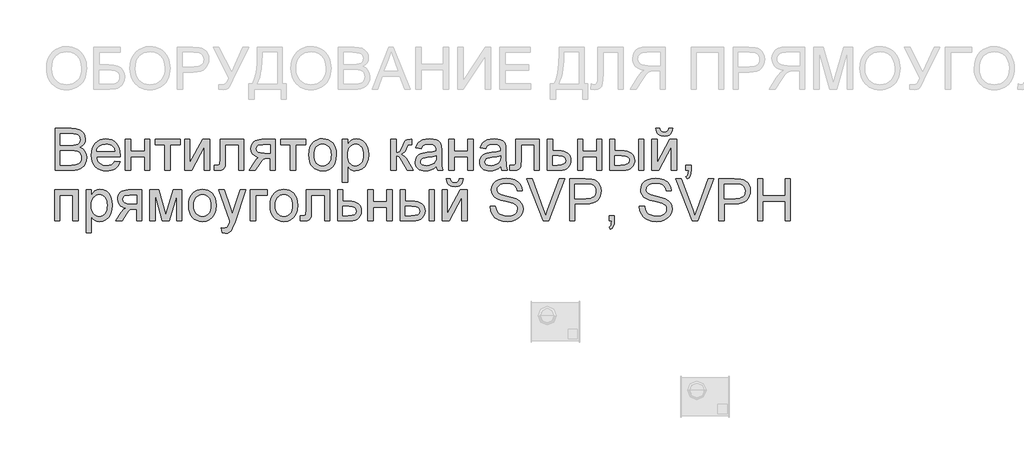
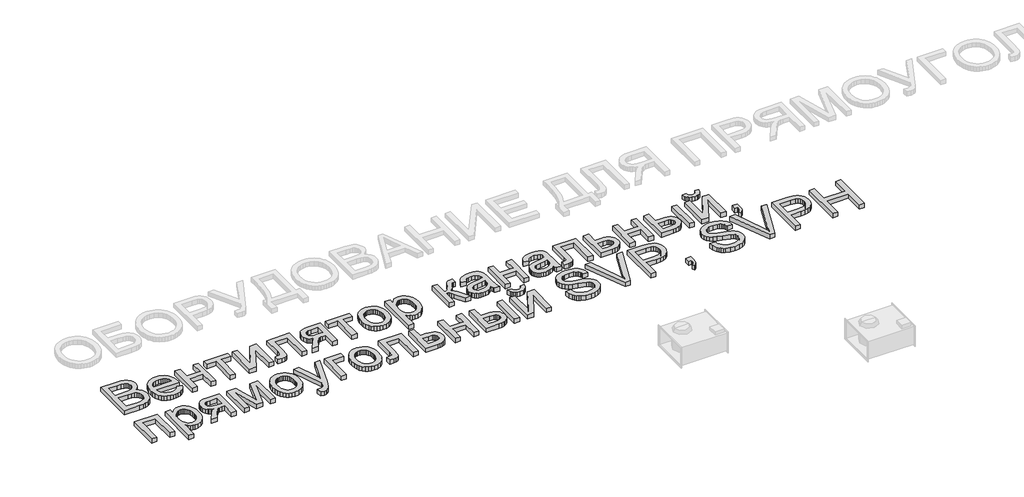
# One storey, part 20 of 31: 1 proxy.
"""IFC4 building model written with IfcOpenShell, lengths in millimetres."""

from ifc_helpers import new_model, si_unit, origin, origin_with_axes, place, context, project, spatial, polyline, outline, extrude, element, save

model = new_model("IFC4")

# Units and contexts
model_context = context("Model", 3, world=origin())
ifc_project = project(units=[si_unit("LENGTHUNIT", "METRE", prefix="MILLI")], contexts=[model_context])

# Site, building, storey
site = spatial("IfcSite", under=ifc_project)
building = spatial("IfcBuilding", under=site)
storey = spatial("IfcBuildingStorey", under=building, Name="Этаж 01", Elevation=0.0)

# Proxy
placement = place(None, origin())
element("IfcBuildingElementProxy", 1, Name="450 мм Arial", ObjectType="450 мм Arial", at=placement, inside=storey, context=model_context, shape_type="SweptSolid", body=[
    extrude(outline(polyline([(23019.0852891, -2479.5055236), (23019.0852891, -2029.8493808), (23190.6703846, -2029.8493808), (23237.8617749, -2033.1564832), (23274.7064631, -2043.0777903), (23302.9471962, -2059.8603056), (23324.326721, -2083.7510327), (23337.7884116, -2111.8545416), (23342.2756418, -2141.2754025), (23338.5019773, -2168.3497302), (23327.1809837, -2193.8048128), (23308.2303265, -2216.0762947), (23281.5676713, -2233.5998205), (23313.4173999, -2250.2313893), (23336.9513442, -2275.5355253), (23351.4833832, -2307.8380936), (23356.3273962, -2345.4649596), (23353.0202939, -2376.8206812), (23343.0989868, -2405.8984817), (23328.2924994, -2430.6262762), (23310.3298562, -2448.9319797), (23288.3328226, -2462.1878341), (23261.423164, -2471.7660807), (23228.7226455, -2477.5706629), (23189.3530327, -2479.5055236), (23019.0852891, -2479.5055236)]), holes=[polyline([(23075.292307, -2212.5221888), (23177.9359822, -2212.5221888), (23213.8338236, -2211.3146162), (23237.8754973, -2207.6918982), (23258.8570721, -2199.3623914), (23273.9380078, -2186.8887149), (23283.0359699, -2170.4629824), (23286.0686239, -2150.2773077), (23283.2418061, -2130.681697), (23274.7613528, -2113.6110109), (23261.0114915, -2100.2865445), (23242.3764499, -2091.9295929), (23213.778934, -2087.5246972), (23170.1416496, -2086.0563987), (23075.292307, -2086.0563987), (23075.292307, -2212.5221888)]), polyline([(23075.292307, -2423.2985058), (23190.5606053, -2423.2985058), (23232.2767514, -2421.1029192), (23251.639081, -2416.2314613), (23267.5708065, -2408.8625237), (23280.5247677, -2398.3099854), (23290.9538042, -2383.8877257), (23297.8287348, -2366.2406981), (23300.1203784, -2346.0138562), (23297.4307848, -2322.5210792), (23289.3620039, -2302.3216822), (23275.2690822, -2286.5271809), (23254.5070661, -2276.2490909), (23225.0999276, -2270.6091777), (23185.0716387, -2268.7292067), (23075.292307, -2268.7292067), (23075.292307, -2423.2985058)])]), origin_with_axes(), (0.0, 0.0, 1.0), 50.0),
    extrude(outline(polyline([(23657.7814412, -2381.1432424), (23712.8906657, -2388.1691196), (23704.4410878, -2410.2416265), (23693.0343291, -2429.6931519), (23678.6703897, -2446.5236957), (23661.3492695, -2460.7332579), (23641.24936, -2472.0199455), (23618.5490525, -2480.0818651), (23593.2483472, -2484.9190169), (23565.3472439, -2486.5314009), (23530.4717224, -2483.7491809), (23499.3973103, -2475.4025211), (23472.1240076, -2461.4914214), (23448.6518142, -2442.0158818), (23429.7766304, -2417.5179378), (23416.2943562, -2388.5396249), (23408.2049917, -2355.0809429), (23405.5085369, -2317.141892), (23408.2324365, -2277.9163645), (23416.4041355, -2243.3427362), (23430.0236339, -2213.4210071), (23449.0909316, -2188.1511772), (23472.5013741, -2168.0752819), (23499.1503068, -2153.7353567), (23529.0377299, -2145.1314016), (23562.1636433, -2142.2634165), (23594.2226387, -2145.1245404), (23623.2146741, -2153.7079119), (23649.1397494, -2168.013531), (23671.9978647, -2188.0413979), (23690.6569205, -2213.2563381), (23703.9848175, -2243.1231776), (23711.9815557, -2277.6419162), (23714.6471351, -2316.812554), (23714.3177971, -2331.9621018), (23461.7155547, -2331.9621018), (23464.971198, -2354.3913915), (23471.444748, -2374.0350307), (23481.1362046, -2390.8930193), (23494.0455679, -2404.9653574), (23509.4592722, -2416.0599311), (23526.6637519, -2423.9846266), (23545.6590069, -2428.7394439), (23566.4450372, -2430.324383), (23596.3599051, -2427.3877859), (23621.5542617, -2418.5779945), (23642.0281071, -2403.3461122), (23657.7814412, -2381.1432424)]), holes=[polyline([(23461.7155547, -2275.7550839), (23658.4401172, -2275.7550839), (23650.8378985, -2246.0597747), (23635.9353542, -2224.817474), (23620.607415, -2213.2906442), (23603.1662237, -2205.0571943), (23583.6117802, -2200.1171244), (23561.9440846, -2198.4704344), (23524.0564927, -2203.7261199), (23492.7282159, -2219.4931764), (23480.2716924, -2230.8930739), (23470.950741, -2244.0700243), (23464.7653618, -2259.0240276), (23461.7155547, -2275.7550839)])]), origin_with_axes(), (0.0, 0.0, 1.0), 50.0),
    extrude(outline(polyline([(23770.8541529, -2149.2892938), (23827.0611708, -2149.2892938), (23827.0611708, -2275.7550839), (23974.6045926, -2275.7550839), (23974.6045926, -2149.2892938), (24030.8116105, -2149.2892938), (24030.8116105, -2479.5055236), (23974.6045926, -2479.5055236), (23974.6045926, -2331.9621018), (23827.0611708, -2331.9621018), (23827.0611708, -2479.5055236), (23770.8541529, -2479.5055236), (23770.8541529, -2149.2892938)])), origin_with_axes(), (0.0, 0.0, 1.0), 50.0),
    extrude(outline(polyline([(24087.0186283, -2149.2892938), (24354.0019631, -2149.2892938), (24354.0019631, -2205.4963116), (24248.6138046, -2205.4963116), (24248.6138046, -2479.5055236), (24192.4067868, -2479.5055236), (24192.4067868, -2205.4963116), (24087.0186283, -2205.4963116), (24087.0186283, -2149.2892938)])), origin_with_axes(), (0.0, 0.0, 1.0), 50.0),
    extrude(outline(polyline([(24403.1831037, -2149.2892938), (24459.3901216, -2149.2892938), (24459.3901216, -2401.1230808), (24597.4925209, -2149.2892938), (24670.1664385, -2149.2892938), (24670.1664385, -2479.5055236), (24613.9594207, -2479.5055236), (24613.9594207, -2229.2086473), (24476.735256, -2479.5055236), (24403.1831037, -2479.5055236), (24403.1831037, -2149.2892938)])), origin_with_axes(), (0.0, 0.0, 1.0), 50.0),
    extrude(outline(polyline([(24782.5804742, -2149.2892938), (25035.5120546, -2149.2892938), (25035.5120546, -2479.1761856), (24979.3050367, -2479.1761856), (24979.3050367, -2205.4963116), (24838.7874921, -2205.4963116), (24838.7874921, -2363.0296527), (24835.0001051, -2435.7035703), (24827.9056158, -2452.1567476), (24814.1969218, -2466.3868935), (24793.3937384, -2476.2258661), (24765.0157812, -2479.5055236), (24719.3475792, -2476.651261), (24719.3475792, -2423.2985058), (24744.4870461, -2423.2985058), (24769.9009614, -2419.8404568), (24776.2544403, -2415.3669491), (24780.0555496, -2408.8625237), (24782.5804742, -2359.846052), (24782.5804742, -2149.2892938)])), origin_with_axes(), (0.0, 0.0, 1.0), 50.0),
    extrude(outline(polyline([(25372.7541617, -2149.2892938), (25372.7541617, -2479.5055236), (25316.5471438, -2479.5055236), (25316.5471438, -2353.0397335), (25285.9187103, -2353.0397335), (25261.492809, -2354.8236476), (25244.2025642, -2360.17539), (25227.5435506, -2375.7366103), (25205.0113428, -2408.148958), (25160.2213754, -2479.5055236), (25095.232011, -2479.5055236), (25151.6585876, -2389.2669129), (25176.5784959, -2356.8820101), (25188.2974395, -2347.4409876), (25199.5223762, -2342.5009176), (25178.8838618, -2337.9382141), (25161.0996101, -2330.7270843), (25146.169621, -2320.8675281), (25134.0938945, -2308.3595455), (25118.1210017, -2278.6093465), (25112.7967041, -2244.687533), (25114.6149243, -2224.4469688), (25120.0695849, -2206.2098773), (25129.1606858, -2189.9762586), (25141.888227, -2175.7461127), (25158.0600948, -2164.1712544), (25177.4841754, -2155.9034985), (25200.1604686, -2150.9428449), (25226.0889745, -2149.2892938), (25372.7541617, -2149.2892938)]), holes=[polyline([(25316.5471438, -2205.4963116), (25242.4460949, -2205.4963116), (25204.1742754, -2208.7485243), (25191.2443285, -2212.8137902), (25182.4516901, -2218.5051624), (25172.365714, -2232.625529), (25169.003722, -2248.968927), (25173.9575143, -2270.3896191), (25188.8188914, -2285.2509961), (25216.2774467, -2293.9372857), (25259.022774, -2296.8327156), (25316.5471438, -2296.8327156), (25316.5471438, -2205.4963116)])]), origin_with_axes(), (0.0, 0.0, 1.0), 50.0),
    extrude(outline(polyline([(25428.9611795, -2149.2892938), (25695.9445143, -2149.2892938), (25695.9445143, -2205.4963116), (25590.5563559, -2205.4963116), (25590.5563559, -2479.5055236), (25534.349338, -2479.5055236), (25534.349338, -2205.4963116), (25428.9611795, -2205.4963116), (25428.9611795, -2149.2892938)])), origin_with_axes(), (0.0, 0.0, 1.0), 50.0),
    extrude(outline(polyline([(25731.0739005, -2314.3974087), (25734.1134157, -2271.6314978), (25743.2319615, -2234.7799484), (25758.4295377, -2203.8427604), (25779.7061445, -2178.819934), (25801.1268366, -2162.8264576), (25824.7705601, -2151.4025459), (25850.6373152, -2144.5481989), (25878.7271017, -2142.2634165), (25909.7363323, -2145.0456365), (25937.7746598, -2153.3922963), (25962.842084, -2167.303396), (25984.9386052, -2186.7789355), (26002.973291, -2211.160239), (26015.8552095, -2239.7886304), (26023.5843605, -2272.6641096), (26026.1607442, -2309.7866768), (26021.604902, -2366.5700361), (26015.9100991, -2389.8775605), (26007.9373752, -2409.795648), (25985.5561139, -2442.1668284), (25954.8590683, -2466.3868935), (25918.3986077, -2481.495274), (25878.7271017, -2486.5314009), (25847.2650313, -2483.7594727), (25818.965978, -2475.4436884), (25793.8299416, -2461.5840477), (25771.8569222, -2442.1805508), (25754.0143502, -2417.5625357), (25741.2696559, -2388.0593403), (25733.6228394, -2353.6709646), (25731.0739005, -2314.3974087)]), holes=[polyline([(25787.2809184, -2314.2876294), (25788.9070247, -2341.5506403), (25793.7853438, -2365.1566272), (25801.9158755, -2385.1055902), (25813.29862, -2401.3975291), (25827.1445382, -2414.0530277), (25842.6645912, -2423.0926695), (25859.858779, -2428.5164546), (25878.7271017, -2430.324383), (25897.4993674, -2428.5061628), (25914.6249432, -2423.0515023), (25930.1038289, -2413.9604014), (25943.9360247, -2401.2328601), (25955.3187692, -2384.7796828), (25963.449301, -2364.5116736), (25968.32762, -2340.4288327), (25969.9537264, -2312.5311601), (25968.3173282, -2286.1326614), (25963.4081337, -2263.1441832), (25955.2261429, -2243.5657255), (25943.7713557, -2227.3972883), (25929.8877009, -2214.7417897), (25914.4191069, -2205.7021479), (25897.3655739, -2200.2783627), (25878.7271017, -2198.4704344), (25859.858779, -2200.2715015), (25842.6645912, -2205.674703), (25827.1445382, -2214.6800388), (25813.29862, -2227.287509), (25801.9158755, -2243.5314195), (25793.7853438, -2263.4460764), (25788.9070247, -2287.0314797), (25787.2809184, -2314.2876294)])]), origin_with_axes(), (0.0, 0.0, 1.0), 50.0),
    extrude(outline(polyline([(26089.3936393, -2605.9713138), (26089.3936393, -2149.2892938), (26145.6006572, -2149.2892938), (26145.6006572, -2204.3985183), (26163.9338056, -2177.2144113), (26184.4625406, -2157.797192), (26208.3944349, -2146.1468604), (26236.9370612, -2142.2634165), (26274.9481548, -2147.6974934), (26308.1838475, -2163.9997242), (26335.2444527, -2190.1820948), (26354.7302841, -2225.2565913), (26366.5041175, -2266.6708442), (26370.4287286, -2311.8724841), (26365.996388, -2359.942109), (26352.6993665, -2402.9344397), (26330.9630588, -2438.6676122), (26301.2128599, -2464.9597622), (26266.5637583, -2481.1384912), (26230.1307426, -2486.5314009), (26204.2914324, -2482.9224053), (26181.2240503, -2472.0954187), (26161.477493, -2455.7520207), (26145.6006572, -2435.5937909), (26145.6006572, -2605.9713138), (26089.3936393, -2605.9713138)]), holes=[polyline([(26145.6006572, -2317.0321127), (26147.1204148, -2344.1201628), (26151.6796877, -2367.4208259), (26159.2784758, -2386.9341021), (26169.9167791, -2402.6599914), (26182.7232243, -2414.7631627), (26196.8264378, -2423.4082851), (26212.2264197, -2428.5953585), (26228.92317, -2430.324383), (26245.8600625, -2428.5336077), (26261.5413539, -2423.1612816), (26275.9670442, -2414.2074049), (26289.1371334, -2401.6719774), (26300.111636, -2385.3766079), (26307.9505664, -2365.1429048), (26312.6539246, -2340.9708682), (26314.2217107, -2312.8604981), (26312.6916613, -2286.005729), (26308.101513, -2262.7462331), (26300.4512658, -2243.0820103), (26289.7409197, -2227.0130606), (26276.9035991, -2214.5256616), (26262.8724283, -2205.6060909), (26247.6474072, -2200.2543485), (26231.2285359, -2198.4704344), (26214.8611237, -2200.3675585), (26199.4611418, -2206.0589307), (26185.0285903, -2215.5445511), (26171.5634691, -2228.8244196), (26160.2047389, -2245.7201449), (26152.0913601, -2266.0533355), (26147.2233329, -2289.8239914), (26145.6006572, -2317.0321127)])]), origin_with_axes(), (0.0, 0.0, 1.0), 50.0),
    extrude(outline(polyline([(26609.3085544, -2149.2892938), (26665.5155723, -2149.2892938), (26665.5155723, -2289.8068384), (26688.3771181, -2287.2819138), (26703.1698831, -2279.7071399), (26716.2610684, -2259.9468602), (26734.0178753, -2220.8654181), (26748.3303557, -2188.9059101), (26759.6513493, -2170.0924771), (26770.2176099, -2159.841832), (26782.2658916, -2153.5706877), (26823.3782513, -2149.2892938), (26834.1366258, -2149.2892938), (26834.1366258, -2205.8256496), (26818.9870781, -2205.4963116), (26801.422385, -2206.9783326), (26791.5422451, -2211.4243955), (26772.2210827, -2248.4200303), (26760.3511925, -2273.0792127), (26749.5516507, -2288.4345967), (26736.4741878, -2298.6852418), (26717.7705342, -2308.0302075), (26735.5822308, -2315.9411805), (26753.2292584, -2329.9037393), (26770.7116169, -2349.9178837), (26788.0293065, -2375.9836138), (26848.1883803, -2479.5055236), (26784.2968092, -2479.5055236), (26725.3453081, -2378.1792004), (26709.427305, -2351.2146521), (26695.7048885, -2335.3103714), (26681.8452479, -2327.5297613), (26665.5155723, -2324.9362245), (26665.5155723, -2479.5055236), (26609.3085544, -2479.5055236), (26609.3085544, -2149.2892938)])), origin_with_axes(), (0.0, 0.0, 1.0), 50.0),
    extrude(outline(polyline([(27094.0940834, -2437.3502602), (27067.2393144, -2460.3764751), (27039.5886452, -2475.4436884), (27010.5108447, -2483.7594727), (26979.3746817, -2486.5314009), (26954.3484247, -2484.8641273), (26932.4028502, -2479.8623065), (26913.5379581, -2471.5259385), (26897.7537486, -2459.8550233), (26885.2903638, -2445.5905713), (26876.3879462, -2429.4735932), (26871.0464955, -2411.5040888), (26869.266012, -2391.6820582), (26871.9556056, -2368.3813951), (26880.0243865, -2347.2214289), (26892.4706183, -2329.1078392), (26908.2925644, -2314.9463054), (26926.8864388, -2304.2428205), (26947.6484549, -2296.5033776), (26996.2806988, -2288.0503691), (27053.750179, -2279.1582432), (27093.7647454, -2268.7292067), (27094.0940834, -2256.2143629), (27090.224362, -2231.1297856), (27078.6151976, -2214.7177755), (27052.6523857, -2202.5322697), (27016.4800959, -2198.4704344), (26982.9973997, -2201.1737504), (26959.614402, -2209.2836986), (26943.6689541, -2224.2822998), (26932.4989071, -2247.651575), (26876.2918892, -2240.6256978), (26886.0485273, -2209.8874849), (26900.6080112, -2185.7360319), (26921.3288601, -2167.2656593), (26949.5695932, -2153.5706877), (26984.1089154, -2145.0902343), (27023.7255318, -2142.2634165), (27061.722903, -2144.7608963), (27091.8436071, -2152.2533357), (27114.5542064, -2163.5194396), (27130.3212629, -2177.337913), (27140.7777442, -2194.4223215), (27147.556618, -2215.4862308), (27150.3011013, -2264.6673714), (27150.3011013, -2334.5968057), (27153.1553639, -2432.2455213), (27164.3528557, -2479.5055236), (27108.1458379, -2479.5055236), (27099.1439327, -2459.9648026), (27094.0940834, -2437.3502602)]), holes=[polyline([(27094.0940834, -2324.9362245), (27056.3299933, -2334.2949126), (27003.4163554, -2342.1715796), (26955.0585598, -2351.2832642), (26942.4751039, -2357.5132412), (26933.1575831, -2366.1034739), (26927.3941682, -2376.3952863), (26925.4730299, -2387.7300023), (26929.6583669, -2404.4439056), (26942.2143779, -2418.1388772), (26962.8666147, -2427.2780066), (26991.3406289, -2430.324383), (27021.5299451, -2426.962391), (27048.2063227, -2416.8764149), (27069.8328511, -2402.0150378), (27084.8726195, -2384.326843), (27091.541714, -2366.1034739), (27093.7647454, -2340.8542276), (27094.0940834, -2324.9362245)])]), origin_with_axes(), (0.0, 0.0, 1.0), 50.0),
    extrude(outline(polyline([(27227.5857508, -2149.2892938), (27283.7927687, -2149.2892938), (27283.7927687, -2275.7550839), (27431.3361905, -2275.7550839), (27431.3361905, -2149.2892938), (27487.5432084, -2149.2892938), (27487.5432084, -2479.5055236), (27431.3361905, -2479.5055236), (27431.3361905, -2331.9621018), (27283.7927687, -2331.9621018), (27283.7927687, -2479.5055236), (27227.5857508, -2479.5055236), (27227.5857508, -2149.2892938)])), origin_with_axes(), (0.0, 0.0, 1.0), 50.0),
    extrude(outline(polyline([(27782.6300521, -2437.3502602), (27755.7752831, -2460.3764751), (27728.1246139, -2475.4436884), (27699.0468134, -2483.7594727), (27667.9106504, -2486.5314009), (27642.8843934, -2484.8641273), (27620.9388189, -2479.8623065), (27602.0739268, -2471.5259385), (27586.2897173, -2459.8550233), (27573.8263325, -2445.5905713), (27564.9239148, -2429.4735932), (27559.5824642, -2411.5040888), (27557.8019807, -2391.6820582), (27560.4915743, -2368.3813951), (27568.5603552, -2347.2214289), (27581.0065869, -2329.1078392), (27596.8285331, -2314.9463054), (27615.4224074, -2304.2428205), (27636.1844236, -2296.5033776), (27684.8166675, -2288.0503691), (27742.2861477, -2279.1582432), (27782.3007141, -2268.7292067), (27782.6300521, -2256.2143629), (27778.7603307, -2231.1297856), (27767.1511663, -2214.7177755), (27741.1883544, -2202.5322697), (27705.0160646, -2198.4704344), (27671.5333684, -2201.1737504), (27648.1503707, -2209.2836986), (27632.2049228, -2224.2822998), (27621.0348758, -2247.651575), (27564.8278579, -2240.6256978), (27574.584496, -2209.8874849), (27589.1439799, -2185.7360319), (27609.8648288, -2167.2656593), (27638.1055619, -2153.5706877), (27672.6448841, -2145.0902343), (27712.2615005, -2142.2634165), (27750.2588717, -2144.7608963), (27780.3795758, -2152.2533357), (27803.0901751, -2163.5194396), (27818.8572316, -2177.337913), (27829.3137129, -2194.4223215), (27836.0925867, -2215.4862308), (27838.83707, -2264.6673714), (27838.83707, -2334.5968057), (27841.6913326, -2432.2455213), (27852.8888244, -2479.5055236), (27796.6818066, -2479.5055236), (27787.6799014, -2459.9648026), (27782.6300521, -2437.3502602)]), holes=[polyline([(27782.6300521, -2324.9362245), (27744.865962, -2334.2949126), (27691.9523241, -2342.1715796), (27643.5945285, -2351.2832642), (27631.0110725, -2357.5132412), (27621.6935518, -2366.1034739), (27615.9301369, -2376.3952863), (27614.0089985, -2387.7300023), (27618.1943356, -2404.4439056), (27630.7503466, -2418.1388772), (27651.4025834, -2427.2780066), (27679.8765976, -2430.324383), (27710.0659138, -2426.962391), (27736.7422914, -2416.8764149), (27758.3688198, -2402.0150378), (27773.4085882, -2384.326843), (27780.0776826, -2366.1034739), (27782.3007141, -2340.8542276), (27782.6300521, -2324.9362245)])]), origin_with_axes(), (0.0, 0.0, 1.0), 50.0),
    extrude(outline(polyline([(27944.2252284, -2149.2892938), (28197.1568088, -2149.2892938), (28197.1568088, -2479.1761856), (28140.9497909, -2479.1761856), (28140.9497909, -2205.4963116), (28000.4322463, -2205.4963116), (28000.4322463, -2363.0296527), (27996.6448593, -2435.7035703), (27989.55037, -2452.1567476), (27975.841676, -2466.3868935), (27955.0384926, -2476.2258661), (27926.6605353, -2479.5055236), (27880.9923333, -2476.651261), (27880.9923333, -2423.2985058), (27906.1318003, -2423.2985058), (27931.5457156, -2419.8404568), (27937.8991944, -2415.3669491), (27941.7003038, -2408.8625237), (27944.2252284, -2359.846052), (27944.2252284, -2149.2892938)])), origin_with_axes(), (0.0, 0.0, 1.0), 50.0),
    extrude(outline(polyline([(28281.4673355, -2149.2892938), (28337.6743534, -2149.2892938), (28337.6743534, -2268.7292067), (28402.4441591, -2268.7292067), (28432.3453046, -2270.4891066), (28458.5962873, -2275.7688063), (28481.1971072, -2284.5683059), (28500.1477644, -2296.8876053), (28515.1326432, -2312.3013096), (28525.836128, -2330.3840239), (28532.2582189, -2351.1357482), (28534.3989159, -2374.5564825), (28532.5772651, -2395.4522922), (28527.1123127, -2414.7768852), (28518.0040588, -2432.5302615), (28505.2525033, -2448.7124211), (28488.4940022, -2462.1844035), (28467.3649114, -2471.807248), (28441.865231, -2477.5809547), (28411.994961, -2479.5055236), (28281.4673355, -2479.5055236), (28281.4673355, -2149.2892938)]), holes=[polyline([(28337.6743534, -2423.2985058), (28390.148874, -2423.2985058), (28430.8632836, -2420.3481862), (28457.9376113, -2411.4972276), (28473.1283263, -2396.3888471), (28478.191898, -2374.6662618), (28474.4456783, -2356.3056686), (28463.2070192, -2340.0857723), (28453.4400893, -2333.4578452), (28439.1241783, -2328.7236115), (28396.8454132, -2324.9362245), (28337.6743534, -2324.9362245), (28337.6743534, -2423.2985058)])]), origin_with_axes(), (0.0, 0.0, 1.0), 50.0),
    extrude(outline(polyline([(28604.6576882, -2149.2892938), (28660.864706, -2149.2892938), (28660.864706, -2275.7550839), (28808.4081279, -2275.7550839), (28808.4081279, -2149.2892938), (28864.6151458, -2149.2892938), (28864.6151458, -2479.5055236), (28808.4081279, -2479.5055236), (28808.4081279, -2331.9621018), (28660.864706, -2331.9621018), (28660.864706, -2479.5055236), (28604.6576882, -2479.5055236), (28604.6576882, -2149.2892938)])), origin_with_axes(), (0.0, 0.0, 1.0), 50.0),
    extrude(outline(polyline([(28948.9256725, -2149.2892938), (29005.1326904, -2149.2892938), (29005.1326904, -2268.7292067), (29074.6230074, -2268.7292067), (29106.5996684, -2270.4891066), (29134.6860243, -2275.7688063), (29158.8820751, -2284.5683059), (29179.1878209, -2296.8876053), (29195.2533399, -2312.3013096), (29206.7287107, -2330.3840239), (29213.6139332, -2351.1357482), (29215.9090073, -2374.5564825), (29213.9844384, -2395.4522922), (29208.2107317, -2414.7768852), (29198.5878871, -2432.5302615), (29185.1159048, -2448.7124211), (29167.4174181, -2462.1844035), (29145.1150608, -2471.807248), (29118.2088327, -2477.5809547), (29086.6987339, -2479.5055236), (28948.9256725, -2479.5055236), (28948.9256725, -2149.2892938)]), holes=[polyline([(29005.1326904, -2423.2985058), (29062.8766189, -2423.2985058), (29107.6391414, -2420.3481862), (29137.4167851, -2411.4972276), (29154.1306884, -2396.3888471), (29159.7019895, -2374.6662618), (29155.5715421, -2356.3056686), (29143.1802001, -2340.0857723), (29132.4252561, -2333.4578452), (29116.6822139, -2328.7236115), (29070.2318341, -2324.9362245), (29005.1326904, -2324.9362245), (29005.1326904, -2423.2985058)])]), origin_with_axes(), (0.0, 0.0, 1.0), 50.0),
    extrude(outline(polyline([(29258.0642707, -2149.2892938), (29314.2712886, -2149.2892938), (29314.2712886, -2479.5055236), (29258.0642707, -2479.5055236), (29258.0642707, -2149.2892938)])), origin_with_axes(), (0.0, 0.0, 1.0), 50.0),
    extrude(outline(polyline([(29581.2546234, -2029.8493808), (29623.4098868, -2029.8493808), (29614.3393695, -2065.8432792), (29606.3769373, -2080.2895532), (29596.1297228, -2092.3687102), (29583.8035622, -2101.9023591), (29569.6042918, -2108.7121083), (29535.5864214, -2114.1599076), (29498.6731211, -2108.7532755), (29483.3245982, -2101.9949854), (29470.0481603, -2092.5333792), (29459.0359211, -2080.5056812), (29450.4799944, -2066.0491155), (29440.7370787, -2029.8493808), (29482.8923421, -2029.8493808), (29488.820426, -2048.3609206), (29498.7005659, -2061.520718), (29512.5876514, -2069.3836627), (29530.5365721, -2072.0046442), (29550.7908588, -2069.4659972), (29565.4463996, -2061.850056), (29575.3265395, -2048.7725931), (29581.2546234, -2029.8493808)])), origin_with_axes(), (0.0, 0.0, 1.0), 50.0),
    extrude(outline(polyline([(29398.5818154, -2149.2892938), (29454.7888332, -2149.2892938), (29454.7888332, -2401.1230808), (29592.8912325, -2149.2892938), (29665.5651502, -2149.2892938), (29665.5651502, -2479.5055236), (29609.3581323, -2479.5055236), (29609.3581323, -2229.2086473), (29472.1339676, -2479.5055236), (29398.5818154, -2479.5055236), (29398.5818154, -2149.2892938)])), origin_with_axes(), (0.0, 0.0, 1.0), 50.0),
    extrude(outline(polyline([(29763.9274314, -2479.5055236), (29763.9274314, -2423.2985058), (29820.1344492, -2423.2985058), (29820.1344492, -2479.5055236), (29817.6095246, -2511.6571454), (29810.0347507, -2536.9750038), (29796.9710102, -2556.3922231), (29777.9791859, -2570.8419276), (29763.9274314, -2549.764296), (29776.1129372, -2539.5822629), (29784.5659458, -2525.5030636), (29789.6981295, -2505.9897874), (29791.921161, -2479.5055236), (29763.9274314, -2479.5055236)])), origin_with_axes(), (0.0, 0.0, 1.0), 50.0),
    extrude(outline(polyline([(23012.0594119, -2689.7213769), (23264.9909922, -2689.7213769), (23264.9909922, -3019.9376068), (23208.7839744, -3019.9376068), (23208.7839744, -2745.9283948), (23068.2664298, -2745.9283948), (23068.2664298, -3019.9376068), (23012.0594119, -3019.9376068), (23012.0594119, -2689.7213769)])), origin_with_axes(), (0.0, 0.0, 1.0), 50.0),
    extrude(outline(polyline([(23349.301519, -3146.403397), (23349.301519, -2689.7213769), (23405.5085369, -2689.7213769), (23405.5085369, -2744.8306015), (23423.8416853, -2717.6464944), (23444.3704203, -2698.2292751), (23468.3023146, -2686.5789436), (23496.8449409, -2682.6954997), (23534.8560345, -2688.1295766), (23568.0917272, -2704.4318074), (23595.1523324, -2730.614178), (23614.6381638, -2765.6886745), (23626.4119972, -2807.1029274), (23630.3366083, -2852.3045672), (23625.9042678, -2900.3741921), (23612.6072462, -2943.3665229), (23590.8709385, -2979.0996954), (23561.1207396, -3005.3918454), (23526.471638, -3021.5705744), (23490.0386223, -3026.963484), (23464.1993121, -3023.3544885), (23441.13193, -3012.5275019), (23421.3853727, -2996.1841039), (23405.5085369, -2976.0258741), (23405.5085369, -3146.403397), (23349.301519, -3146.403397)]), holes=[polyline([(23405.5085369, -2857.4641958), (23407.0282945, -2884.5522459), (23411.5875674, -2907.8529091), (23419.1863555, -2927.3661853), (23429.8246588, -2943.0920746), (23442.631104, -2955.1952459), (23456.7343175, -2963.8403683), (23472.1342994, -2969.0274417), (23488.8310497, -2970.7564662), (23505.7679422, -2968.9656908), (23521.4492336, -2963.5933648), (23535.8749239, -2954.6394881), (23549.0450131, -2942.1040606), (23560.0195157, -2925.8086911), (23567.8584461, -2905.574988), (23572.5618043, -2881.4029514), (23574.1295904, -2853.2925812), (23572.599541, -2826.4378122), (23568.0093927, -2803.1783163), (23560.3591455, -2783.5140935), (23549.6487994, -2767.4451438), (23536.8114788, -2754.9577448), (23522.780308, -2746.0381741), (23507.5552869, -2740.6864317), (23491.1364156, -2738.9025176), (23474.7690034, -2740.7996416), (23459.3690215, -2746.4910139), (23444.93647, -2755.9766342), (23431.4713488, -2769.2565028), (23420.1126186, -2786.1522281), (23411.9992399, -2806.4854187), (23407.1312126, -2830.2560746), (23405.5085369, -2857.4641958)])]), origin_with_axes(), (0.0, 0.0, 1.0), 50.0),
    extrude(outline(polyline([(23946.5010837, -2689.7213769), (23946.5010837, -3019.9376068), (23890.2940658, -3019.9376068), (23890.2940658, -2893.4718166), (23859.6656323, -2893.4718166), (23835.239731, -2895.2557308), (23817.9494862, -2900.6074732), (23801.2904726, -2916.1686935), (23778.7582648, -2948.5810412), (23733.9682974, -3019.9376068), (23668.978933, -3019.9376068), (23725.4055096, -2929.6989961), (23750.3254179, -2897.3140933), (23762.0443615, -2887.8730707), (23773.2692982, -2882.9330008), (23752.6307838, -2878.3702973), (23734.8465321, -2871.1591675), (23719.916543, -2861.2996112), (23707.8408165, -2848.7916286), (23691.8679237, -2819.0414297), (23686.5436261, -2785.1196162), (23688.3618463, -2764.8790519), (23693.8165069, -2746.6419604), (23702.9076078, -2730.4083418), (23715.635149, -2716.1781959), (23731.8070168, -2704.6033376), (23751.2310974, -2696.3355817), (23773.9073906, -2691.3749281), (23799.8358965, -2689.7213769), (23946.5010837, -2689.7213769)]), holes=[polyline([(23890.2940658, -2745.9283948), (23816.1930169, -2745.9283948), (23777.9211974, -2749.1806075), (23764.9912505, -2753.2458734), (23756.1986121, -2758.9372456), (23746.112636, -2773.0576121), (23742.750644, -2789.4010102), (23747.7044363, -2810.8217023), (23762.5658134, -2825.6830793), (23790.0243687, -2834.3693689), (23832.769696, -2837.2647988), (23890.2940658, -2837.2647988), (23890.2940658, -2745.9283948)])]), origin_with_axes(), (0.0, 0.0, 1.0), 50.0),
    extrude(outline(polyline([(24030.8116105, -2689.7213769), (24127.5272017, -2689.7213769), (24202.067368, -2954.0700078), (24282.4258388, -2689.7213769), (24375.0795948, -2689.7213769), (24375.0795948, -3019.9376068), (24318.872577, -3019.9376068), (24318.872577, -2754.0520653), (24238.0749888, -3019.9376068), (24164.3032779, -3019.9376068), (24087.0186283, -2741.3176629), (24087.0186283, -3019.9376068), (24030.8116105, -3019.9376068), (24030.8116105, -2689.7213769)])), origin_with_axes(), (0.0, 0.0, 1.0), 50.0),
    extrude(outline(polyline([(24445.3383671, -2854.8294919), (24448.3778824, -2812.063581), (24457.4964281, -2775.2120315), (24472.6940044, -2744.2748436), (24493.9706111, -2719.2520172), (24515.3913032, -2703.2585408), (24539.0350268, -2691.8346291), (24564.9017818, -2684.980282), (24592.9915683, -2682.6954997), (24624.0007989, -2685.4777196), (24652.0391264, -2693.8243795), (24677.1065507, -2707.7354792), (24699.2030718, -2727.2110187), (24717.2377576, -2751.5923222), (24730.1196761, -2780.2207135), (24737.8488272, -2813.0961928), (24740.4252109, -2850.2187599), (24735.8693686, -2907.0021193), (24730.1745658, -2930.3096437), (24722.2018418, -2950.2277312), (24699.8205805, -2982.5989116), (24669.1235349, -3006.8189767), (24632.6630743, -3021.9273572), (24592.9915683, -3026.963484), (24561.529498, -3024.1915559), (24533.2304446, -3015.8757715), (24508.0944082, -3002.0161309), (24486.1213889, -2982.612634), (24468.2788169, -2957.9946189), (24455.5341226, -2928.4914235), (24447.887306, -2894.1030478), (24445.3383671, -2854.8294919)]), holes=[polyline([(24501.545385, -2854.7197125), (24503.1714913, -2881.9827235), (24508.0498104, -2905.5887104), (24516.1803421, -2925.5376733), (24527.5630866, -2941.8296123), (24541.4090048, -2954.4851109), (24556.9290578, -2963.5247527), (24574.1232457, -2968.9485378), (24592.9915683, -2970.7564662), (24611.7638341, -2968.938246), (24628.8894098, -2963.4835855), (24644.3682956, -2954.3924846), (24658.2004914, -2941.6649433), (24669.5832358, -2925.2117659), (24677.7137676, -2904.9437568), (24682.5920866, -2880.8609159), (24684.218193, -2852.9632432), (24682.5817948, -2826.5647446), (24677.6726003, -2803.5762664), (24669.4906095, -2783.9978087), (24658.0358224, -2767.8293715), (24644.1521675, -2755.1738729), (24628.6835736, -2746.134231), (24611.6300405, -2740.7104459), (24592.9915683, -2738.9025176), (24574.1232457, -2740.7035847), (24556.9290578, -2746.1067862), (24541.4090048, -2755.112122), (24527.5630866, -2767.7195921), (24516.1803421, -2783.9635026), (24508.0498104, -2803.8781595), (24503.1714913, -2827.4635628), (24501.545385, -2854.7197125)])]), origin_with_axes(), (0.0, 0.0, 1.0), 50.0),
    extrude(outline(polyline([(24803.6581059, -3146.403397), (24796.6322287, -3092.2821864), (24825.174855, -3097.2222564), (24840.1871786, -3095.6716233), (24851.8512326, -3091.0197241), (24868.208353, -3073.7294794), (24883.5774594, -3032.3426713), (24887.9686327, -3018.7300342), (24768.5287198, -2689.7213769), (24827.8095589, -2689.7213769), (24891.1522333, -2873.0528609), (24913.217879, -2946.3854545), (24935.2835247, -2881.6156488), (25000.3826684, -2689.7213769), (25059.2243902, -2689.7213769), (24944.2854299, -3027.8417187), (24914.4254517, -3101.1743123), (24899.1386797, -3124.5847548), (24881.8209901, -3140.8046511), (24861.7039276, -3150.2731184), (24838.0190368, -3153.4292742), (24803.6581059, -3146.403397)])), origin_with_axes(), (0.0, 0.0, 1.0), 50.0),
    extrude(outline(polyline([(25105.7708269, -2689.7213769), (25288.4436349, -2689.7213769), (25288.4436349, -2745.9283948), (25161.9778447, -2745.9283948), (25161.9778447, -3019.9376068), (25105.7708269, -3019.9376068), (25105.7708269, -2689.7213769)])), origin_with_axes(), (0.0, 0.0, 1.0), 50.0),
    extrude(outline(polyline([(25316.5471438, -2854.8294919), (25319.5866591, -2812.063581), (25328.7052048, -2775.2120315), (25343.9027811, -2744.2748436), (25365.1793878, -2719.2520172), (25386.6000799, -2703.2585408), (25410.2438035, -2691.8346291), (25436.1105585, -2684.980282), (25464.200345, -2682.6954997), (25495.2095756, -2685.4777196), (25523.2479031, -2693.8243795), (25548.3153274, -2707.7354792), (25570.4118485, -2727.2110187), (25588.4465343, -2751.5923222), (25601.3284528, -2780.2207135), (25609.0576039, -2813.0961928), (25611.6339876, -2850.2187599), (25607.0781453, -2907.0021193), (25601.3833425, -2930.3096437), (25593.4106185, -2950.2277312), (25571.0293572, -2982.5989116), (25540.3323116, -3006.8189767), (25503.871851, -3021.9273572), (25464.200345, -3026.963484), (25432.7382747, -3024.1915559), (25404.4392213, -3015.8757715), (25379.3031849, -3002.0161309), (25357.3301656, -2982.612634), (25339.4875936, -2957.9946189), (25326.7428993, -2928.4914235), (25319.0960827, -2894.1030478), (25316.5471438, -2854.8294919)]), holes=[polyline([(25372.7541617, -2854.7197125), (25374.380268, -2881.9827235), (25379.2585871, -2905.5887104), (25387.3891189, -2925.5376733), (25398.7718633, -2941.8296123), (25412.6177815, -2954.4851109), (25428.1378346, -2963.5247527), (25445.3320224, -2968.9485378), (25464.200345, -2970.7564662), (25482.9726108, -2968.938246), (25500.0981865, -2963.4835855), (25515.5770723, -2954.3924846), (25529.4092681, -2941.6649433), (25540.7920125, -2925.2117659), (25548.9225443, -2904.9437568), (25553.8008634, -2880.8609159), (25555.4269697, -2852.9632432), (25553.7905715, -2826.5647446), (25548.8813771, -2803.5762664), (25540.6993862, -2783.9978087), (25529.2445991, -2767.8293715), (25515.3609442, -2755.1738729), (25499.8923503, -2746.134231), (25482.8388172, -2740.7104459), (25464.200345, -2738.9025176), (25445.3320224, -2740.7035847), (25428.1378346, -2746.1067862), (25412.6177815, -2755.112122), (25398.7718633, -2767.7195921), (25387.3891189, -2783.9635026), (25379.2585871, -2803.8781595), (25374.380268, -2827.4635628), (25372.7541617, -2854.7197125)])]), origin_with_axes(), (0.0, 0.0, 1.0), 50.0),
    extrude(outline(polyline([(25702.9703916, -2689.7213769), (25955.9019719, -2689.7213769), (25955.9019719, -3019.6082688), (25899.6949541, -3019.6082688), (25899.6949541, -2745.9283948), (25759.1774094, -2745.9283948), (25759.1774094, -2903.4617358), (25755.3900225, -2976.1356535), (25748.2955332, -2992.5888308), (25734.5868391, -3006.8189767), (25713.7836557, -3016.6579493), (25685.4056985, -3019.9376068), (25639.7374965, -3017.0833442), (25639.7374965, -2963.730589), (25664.8769635, -2963.730589), (25690.2908788, -2960.27254), (25696.6443576, -2955.7990322), (25700.4454669, -2949.2946068), (25702.9703916, -2900.2781352), (25702.9703916, -2689.7213769)])), origin_with_axes(), (0.0, 0.0, 1.0), 50.0),
    extrude(outline(polyline([(26040.2124987, -2689.7213769), (26096.4195165, -2689.7213769), (26096.4195165, -2809.1612899), (26161.1893223, -2809.1612899), (26191.0904677, -2810.9211898), (26217.3414505, -2816.2008895), (26239.9422704, -2825.0003891), (26258.8929275, -2837.3196885), (26273.8778063, -2852.7333928), (26284.5812911, -2870.8161071), (26291.0033821, -2891.5678314), (26293.144079, -2914.9885657), (26291.3224282, -2935.8843753), (26285.8574759, -2955.2089683), (26276.7492219, -2972.9623446), (26263.9976664, -2989.1445043), (26247.2391653, -3002.6164866), (26226.1100746, -3012.2393312), (26200.6103942, -3018.0130379), (26170.7401241, -3019.9376068), (26040.2124987, -3019.9376068), (26040.2124987, -2689.7213769)]), holes=[polyline([(26096.4195165, -2963.730589), (26148.8940371, -2963.730589), (26189.6084468, -2960.7802694), (26216.6827745, -2951.9293108), (26231.8734895, -2936.8209303), (26236.9370612, -2915.098345), (26233.1908415, -2896.7377518), (26221.9521824, -2880.5178555), (26212.1852525, -2873.8899283), (26197.8693415, -2869.1556947), (26155.5905763, -2865.3683077), (26096.4195165, -2865.3683077), (26096.4195165, -2963.730589)])]), origin_with_axes(), (0.0, 0.0, 1.0), 50.0),
    extrude(outline(polyline([(26363.4028513, -2689.7213769), (26419.6098692, -2689.7213769), (26419.6098692, -2816.1871671), (26567.153291, -2816.1871671), (26567.153291, -2689.7213769), (26623.3603089, -2689.7213769), (26623.3603089, -3019.9376068), (26567.153291, -3019.9376068), (26567.153291, -2872.394185), (26419.6098692, -2872.394185), (26419.6098692, -3019.9376068), (26363.4028513, -3019.9376068), (26363.4028513, -2689.7213769)])), origin_with_axes(), (0.0, 0.0, 1.0), 50.0),
    extrude(outline(polyline([(27016.8094339, -2689.7213769), (27073.0164517, -2689.7213769), (27073.0164517, -3019.9376068), (27016.8094339, -3019.9376068), (27016.8094339, -2689.7213769)])), origin_with_axes(), (0.0, 0.0, 1.0), 50.0),
    extrude(outline(polyline([(26707.6708357, -2689.7213769), (26763.8778535, -2689.7213769), (26763.8778535, -2809.1612899), (26833.3681705, -2809.1612899), (26865.3448315, -2810.9211898), (26893.4311874, -2816.2008895), (26917.6272382, -2825.0003891), (26937.932984, -2837.3196885), (26953.9985031, -2852.7333928), (26965.4738739, -2870.8161071), (26972.3590963, -2891.5678314), (26974.6541705, -2914.9885657), (26972.7296016, -2935.8843753), (26966.9558948, -2955.2089683), (26957.3330503, -2972.9623446), (26943.8610679, -2989.1445043), (26926.1625813, -3002.6164866), (26903.8602239, -3012.2393312), (26876.9539958, -3018.0130379), (26845.443897, -3019.9376068), (26707.6708357, -3019.9376068), (26707.6708357, -2689.7213769)]), holes=[polyline([(26763.8778535, -2963.730589), (26821.621782, -2963.730589), (26866.3843045, -2960.7802694), (26896.1619483, -2951.9293108), (26912.8758515, -2936.8209303), (26918.4471526, -2915.098345), (26914.3167053, -2896.7377518), (26901.9253632, -2880.5178555), (26891.1704193, -2873.8899283), (26875.427377, -2869.1556947), (26828.9769973, -2865.3683077), (26763.8778535, -2865.3683077), (26763.8778535, -2963.730589)])]), origin_with_axes(), (0.0, 0.0, 1.0), 50.0),
    extrude(outline(polyline([(27157.3269785, -2689.7213769), (27213.5339963, -2689.7213769), (27213.5339963, -2941.555164), (27351.6363957, -2689.7213769), (27424.3103133, -2689.7213769), (27424.3103133, -3019.9376068), (27368.1032954, -3019.9376068), (27368.1032954, -2769.6407304), (27230.8791308, -3019.9376068), (27157.3269785, -3019.9376068), (27157.3269785, -2689.7213769)])), origin_with_axes(), (0.0, 0.0, 1.0), 50.0),
    extrude(outline(polyline([(27339.9997865, -2570.281464), (27382.1550499, -2570.281464), (27373.0845326, -2606.2753624), (27365.1221005, -2620.7216363), (27354.874886, -2632.8007934), (27342.5487254, -2642.3344423), (27328.3494549, -2649.1441914), (27294.3315845, -2654.5919908), (27257.4182842, -2649.1853587), (27242.0697614, -2642.4270686), (27228.7933235, -2632.9654624), (27217.7810842, -2620.9377644), (27209.2251576, -2606.4811986), (27199.4822419, -2570.281464), (27241.6375053, -2570.281464), (27247.5655892, -2588.7930038), (27257.445729, -2601.9528012), (27271.3328145, -2609.8157458), (27289.2817353, -2612.4367274), (27309.536022, -2609.8980803), (27324.1915627, -2602.2821392), (27334.0717026, -2589.2046763), (27339.9997865, -2570.281464)])), origin_with_axes(), (0.0, 0.0, 1.0), 50.0),
    extrude(outline(polyline([(27670.2160164, -2865.3683077), (27726.4230343, -2865.3683077), (27732.87257, -2896.5593604), (27744.536624, -2921.6302152), (27762.7325482, -2941.5277191), (27788.7776947, -2957.1987187), (27820.6137009, -2967.3670293), (27856.1822044, -2970.7564662), (27887.4967587, -2968.1903743), (27914.9141469, -2960.4920987), (27937.1307391, -2948.3065929), (27952.842906, -2932.2788104), (27962.1878716, -2913.8770499), (27965.3028601, -2894.56961), (27962.9700493, -2875.756177), (27955.9716169, -2859.4951135), (27941.7551935, -2845.6217504), (27917.7684095, -2833.9714188), (27835.9279177, -2812.5095595), (27782.2046572, -2798.3068584), (27747.8300039, -2784.7902782), (27719.8499968, -2765.8807883), (27700.021105, -2742.9643528), (27688.2061044, -2716.5349787), (27684.2677709, -2687.086673), (27689.1392287, -2654.1665959), (27703.7536022, -2623.4695502), (27727.7266638, -2597.4518486), (27760.6741858, -2578.5698035), (27800.22219, -2567.084141), (27843.9966985, -2563.2555868), (27891.4213699, -2567.2625324), (27932.9179573, -2579.2833692), (27967.0044398, -2599.0710937), (27992.1987964, -2626.3787025), (28008.1442443, -2659.5046159), (28014.4840007, -2696.7472542), (27958.2769829, -2696.7472542), (27954.5170408, -2678.8120558), (27947.9577257, -2663.2096683), (27938.5990377, -2649.9400916), (27926.4409767, -2639.0033257), (27911.2571229, -2630.4542602), (27892.8210563, -2624.3477849), (27846.1922852, -2619.4626046), (27798.4657207, -2624.2928952), (27780.221768, -2630.3307585), (27765.724035, -2638.783767), (27746.7871003, -2660.1084022), (27742.0528666, -2672.2733244), (27740.4747887, -2685.439983), (27744.9482965, -2707.0390665), (27758.3688198, -2724.4116458), (27790.0950467, -2739.9454212), (27850.1443411, -2755.8085346), (27912.1147739, -2770.8757479), (27949.6044157, -2784.0218229), (27981.6462581, -2804.4133338), (28004.0000746, -2829.5802456), (28017.1324271, -2859.24811), (28021.509878, -2893.1424787), (28016.4737511, -2927.7915802), (28001.3653706, -2960.3823193), (27976.8022451, -2988.4309386), (27943.4018834, -3009.4536806), (27903.2363704, -3022.5860332), (27858.377791, -3026.963484), (27803.3097337, -3022.2429728), (27757.9845921, -3008.081439), (27738.8452518, -2997.4465662), (27721.8809144, -2984.423993), (27707.0915801, -2969.0137193), (27694.4772487, -2951.2157451), (27676.8851108, -2910.7620614), (27670.2160164, -2865.3683077)])), origin_with_axes(), (0.0, 0.0, 1.0), 50.0),
    extrude(outline(polyline([(28238.6533962, -3019.9376068), (28059.7130854, -2570.281464), (28119.8721592, -2570.281464), (28239.6414101, -2894.240272), (28263.9026425, -2967.2435276), (28287.8345368, -2894.240272), (28407.9331257, -2570.281464), (28468.0921995, -2570.281464), (28296.7266627, -3019.9376068), (28238.6533962, -3019.9376068)])), origin_with_axes(), (0.0, 0.0, 1.0), 50.0),
    extrude(outline(polyline([(28520.3471614, -3019.9376068), (28520.3471614, -2570.281464), (28686.992187, -2570.281464), (28754.177138, -2574.5628579), (28784.1331732, -2582.5630267), (28808.7923556, -2595.5856), (28828.6486922, -2614.2206415), (28844.1961901, -2639.0582153), (28854.2409989, -2668.3555745), (28857.5892685, -2700.3699721), (28855.3285004, -2727.9726128), (28848.5461961, -2753.3659445), (28837.2423555, -2776.5499671), (28821.4169787, -2797.5246807), (28799.6909628, -2814.9109824), (28770.685205, -2827.3297693), (28734.3997053, -2834.7810414), (28690.8344636, -2837.2647988), (28576.5541793, -2837.2647988), (28576.5541793, -3019.9376068), (28520.3471614, -3019.9376068)]), holes=[polyline([(28576.5541793, -2781.0577809), (28694.1278436, -2781.0577809), (28743.9676602, -2775.8981524), (28762.5478121, -2769.4486166), (28776.9014597, -2760.4192666), (28787.6118057, -2749.0502445), (28795.2620529, -2735.5816928), (28799.8522012, -2720.0136113), (28801.3822507, -2702.3460001), (28797.7732551, -2677.0967538), (28786.9462685, -2655.7995634), (28770.2460877, -2639.771781), (28749.0175094, -2630.3307585), (28692.8104916, -2626.4884819), (28576.5541793, -2626.4884819), (28576.5541793, -2781.0577809)])]), origin_with_axes(), (0.0, 0.0, 1.0), 50.0),
    extrude(outline(polyline([(28941.8997953, -3019.9376068), (28941.8997953, -2963.730589), (28998.1068132, -2963.730589), (28998.1068132, -3019.9376068), (28995.5818885, -3052.0892286), (28988.0071146, -3077.407087), (28974.9433742, -3096.8243063), (28955.9515498, -3111.2740108), (28941.8997953, -3090.1963791), (28954.0853011, -3080.0143461), (28962.5383097, -3065.9351468), (28967.6704934, -3046.4218706), (28969.8935249, -3019.9376068), (28941.8997953, -3019.9376068)])), origin_with_axes(), (0.0, 0.0, 1.0), 50.0),
    extrude(outline(polyline([(29265.090148, -2865.3683077), (29321.2971658, -2865.3683077), (29327.7467015, -2896.5593604), (29339.4107555, -2921.6302152), (29357.6066798, -2941.5277191), (29383.6518262, -2957.1987187), (29415.4878324, -2967.3670293), (29451.0563359, -2970.7564662), (29482.3708903, -2968.1903743), (29509.7882784, -2960.4920987), (29532.0048707, -2948.3065929), (29547.7170375, -2932.2788104), (29557.0620031, -2913.8770499), (29560.1769917, -2894.56961), (29557.8441809, -2875.756177), (29550.8457485, -2859.4951135), (29536.629325, -2845.6217504), (29512.642541, -2833.9714188), (29430.8020492, -2812.5095595), (29377.0787887, -2798.3068584), (29342.7041355, -2784.7902782), (29314.7241283, -2765.8807883), (29294.8952365, -2742.9643528), (29283.0802359, -2716.5349787), (29279.1419024, -2687.086673), (29284.0133603, -2654.1665959), (29298.6277338, -2623.4695502), (29322.6007954, -2597.4518486), (29355.5483173, -2578.5698035), (29395.0963216, -2567.084141), (29438.8708301, -2563.2555868), (29486.2955014, -2567.2625324), (29527.7920888, -2579.2833692), (29561.8785713, -2599.0710937), (29587.072928, -2626.3787025), (29603.0183759, -2659.5046159), (29609.3581323, -2696.7472542), (29553.1511144, -2696.7472542), (29549.3911723, -2678.8120558), (29542.8318573, -2663.2096683), (29533.4731692, -2649.9400916), (29521.3151082, -2639.0033257), (29506.1312544, -2630.4542602), (29487.6951879, -2624.3477849), (29441.0664167, -2619.4626046), (29393.3398523, -2624.2928952), (29375.0958996, -2630.3307585), (29360.5981666, -2638.783767), (29341.6612318, -2660.1084022), (29336.9269982, -2672.2733244), (29335.3489203, -2685.439983), (29339.822428, -2707.0390665), (29353.2429513, -2724.4116458), (29384.9691782, -2739.9454212), (29445.0184727, -2755.8085346), (29506.9889054, -2770.8757479), (29544.4785472, -2784.0218229), (29576.5203897, -2804.4133338), (29598.8742061, -2829.5802456), (29612.0065587, -2859.24811), (29616.3840095, -2893.1424787), (29611.3478827, -2927.7915802), (29596.2395022, -2960.3823193), (29571.6763767, -2988.4309386), (29538.276015, -3009.4536806), (29498.110502, -3022.5860332), (29453.2519226, -3026.963484), (29398.1838653, -3022.2429728), (29352.8587237, -3008.081439), (29333.7193833, -2997.4465662), (29316.755046, -2984.423993), (29301.9657116, -2969.0137193), (29289.3513803, -2951.2157451), (29271.7592424, -2910.7620614), (29265.090148, -2865.3683077)])), origin_with_axes(), (0.0, 0.0, 1.0), 50.0),
    extrude(outline(polyline([(29833.5275277, -3019.9376068), (29654.587217, -2570.281464), (29714.7462908, -2570.281464), (29834.5155417, -2894.240272), (29858.776774, -2967.2435276), (29882.7086683, -2894.240272), (30002.8072573, -2570.281464), (30062.9663311, -2570.281464), (29891.6007942, -3019.9376068), (29833.5275277, -3019.9376068)])), origin_with_axes(), (0.0, 0.0, 1.0), 50.0),
    extrude(outline(polyline([(30115.221293, -3019.9376068), (30115.221293, -2570.281464), (30281.8663186, -2570.281464), (30349.0512696, -2574.5628579), (30379.0073047, -2582.5630267), (30403.6664871, -2595.5856), (30423.5228237, -2614.2206415), (30439.0703216, -2639.0582153), (30449.1151305, -2668.3555745), (30452.4634001, -2700.3699721), (30450.202632, -2727.9726128), (30443.4203276, -2753.3659445), (30432.1164871, -2776.5499671), (30416.2911103, -2797.5246807), (30394.5650944, -2814.9109824), (30365.5593366, -2827.3297693), (30329.2738368, -2834.7810414), (30285.7085952, -2837.2647988), (30171.4283108, -2837.2647988), (30171.4283108, -3019.9376068), (30115.221293, -3019.9376068)]), holes=[polyline([(30171.4283108, -2781.0577809), (30289.0019751, -2781.0577809), (30338.8417917, -2775.8981524), (30357.4219436, -2769.4486166), (30371.7755912, -2760.4192666), (30382.4859373, -2749.0502445), (30390.1361845, -2735.5816928), (30394.7263328, -2720.0136113), (30396.2563822, -2702.3460001), (30392.6473867, -2677.0967538), (30381.8204001, -2655.7995634), (30365.1202193, -2639.771781), (30343.891641, -2630.3307585), (30287.6846231, -2626.4884819), (30171.4283108, -2626.4884819), (30171.4283108, -2781.0577809)])]), origin_with_axes(), (0.0, 0.0, 1.0), 50.0),
    extrude(outline(polyline([(30529.7480496, -3019.9376068), (30529.7480496, -2570.281464), (30585.9550675, -2570.281464), (30585.9550675, -2752.954272), (30824.8348934, -2752.954272), (30824.8348934, -2570.281464), (30881.0419112, -2570.281464), (30881.0419112, -3019.9376068), (30824.8348934, -3019.9376068), (30824.8348934, -2809.1612899), (30585.9550675, -2809.1612899), (30585.9550675, -3019.9376068), (30529.7480496, -3019.9376068)])), origin_with_axes(), (0.0, 0.0, 1.0), 50.0),
])

save(model, "model.ifc")
